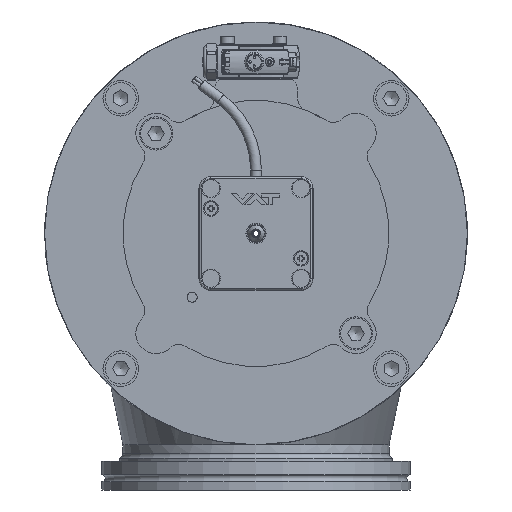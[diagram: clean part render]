
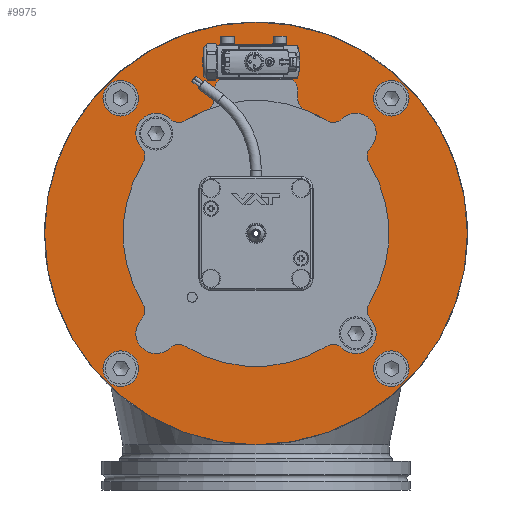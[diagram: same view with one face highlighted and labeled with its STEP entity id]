
A CAD part, left-side view. The second image highlights one B-rep face of the part: STEP entity #9975.
In plain terms, the highlighted planar face has unit normal (-1, 0, 0).
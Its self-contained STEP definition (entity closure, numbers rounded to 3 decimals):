
#9975=ADVANCED_FACE('BCT_REF_77270',(#13050,#13051,#13052,#13053,#13054,
#13055,#13056,#13057,#13058,#13059),#11048,.F.);
#11048=PLANE('',#31050);
#11951=CIRCLE('',#30988,89.);
#11982=CIRCLE('',#31041,3.4);
#11983=CIRCLE('',#31042,3.4);
#11984=CIRCLE('',#31043,3.4);
#11985=CIRCLE('',#31044,3.4);
#11986=CIRCLE('',#31045,7.5);
#11987=CIRCLE('',#31046,7.5);
#11988=CIRCLE('',#31047,7.5);
#11989=CIRCLE('',#31048,7.5);
#11990=CIRCLE('',#31049,55.145);
#13050=FACE_BOUND('',#14231,.T.);
#13051=FACE_BOUND('',#14232,.T.);
#13052=FACE_BOUND('',#14233,.T.);
#13053=FACE_BOUND('',#14234,.T.);
#13054=FACE_BOUND('',#14235,.T.);
#13055=FACE_BOUND('',#14236,.T.);
#13056=FACE_BOUND('',#14237,.T.);
#13057=FACE_BOUND('',#14238,.T.);
#13058=FACE_BOUND('',#14239,.T.);
#13059=FACE_BOUND('',#14240,.T.);
#14231=EDGE_LOOP('',(#17868));
#14232=EDGE_LOOP('',(#17869));
#14233=EDGE_LOOP('',(#17870));
#14234=EDGE_LOOP('',(#17871));
#14235=EDGE_LOOP('',(#17872));
#14236=EDGE_LOOP('',(#17873));
#14237=EDGE_LOOP('',(#17874));
#14238=EDGE_LOOP('',(#17875));
#14239=EDGE_LOOP('',(#17876));
#14240=EDGE_LOOP('',(#17877));
#17868=ORIENTED_EDGE('',*,*,#24912,.T.);
#17869=ORIENTED_EDGE('',*,*,#24913,.T.);
#17870=ORIENTED_EDGE('',*,*,#24914,.T.);
#17871=ORIENTED_EDGE('',*,*,#24915,.T.);
#17872=ORIENTED_EDGE('',*,*,#24916,.T.);
#17873=ORIENTED_EDGE('',*,*,#24917,.T.);
#17874=ORIENTED_EDGE('',*,*,#24918,.T.);
#17875=ORIENTED_EDGE('',*,*,#24919,.T.);
#17876=ORIENTED_EDGE('',*,*,#24920,.T.);
#17877=ORIENTED_EDGE('',*,*,#24873,.T.);
#22355=VERTEX_POINT('',#45001);
#22390=VERTEX_POINT('',#45190);
#22391=VERTEX_POINT('',#45192);
#22392=VERTEX_POINT('',#45194);
#22393=VERTEX_POINT('',#45196);
#22394=VERTEX_POINT('',#45198);
#22395=VERTEX_POINT('',#45200);
#22396=VERTEX_POINT('',#45202);
#22397=VERTEX_POINT('',#45204);
#22398=VERTEX_POINT('',#45206);
#24873=EDGE_CURVE('',#22355,#22355,#11951,.T.);
#24912=EDGE_CURVE('',#22390,#22390,#11982,.T.);
#24913=EDGE_CURVE('',#22391,#22391,#11983,.T.);
#24914=EDGE_CURVE('',#22392,#22392,#11984,.T.);
#24915=EDGE_CURVE('BCT_REF_77872',#22393,#22393,#11985,.T.);
#24916=EDGE_CURVE('BCT_REF_108915',#22394,#22394,#11986,.T.);
#24917=EDGE_CURVE('',#22395,#22395,#11987,.T.);
#24918=EDGE_CURVE('',#22396,#22396,#11988,.T.);
#24919=EDGE_CURVE('',#22397,#22397,#11989,.T.);
#24920=EDGE_CURVE('BCT_REF_78328',#22398,#22398,#11990,.T.);
#30988=AXIS2_PLACEMENT_3D('',#45000,#35199,#35200);
#31041=AXIS2_PLACEMENT_3D('',#45189,#35309,#35310);
#31042=AXIS2_PLACEMENT_3D('',#45191,#35311,#35312);
#31043=AXIS2_PLACEMENT_3D('',#45193,#35313,#35314);
#31044=AXIS2_PLACEMENT_3D('',#45195,#35315,#35316);
#31045=AXIS2_PLACEMENT_3D('',#45197,#35317,#35318);
#31046=AXIS2_PLACEMENT_3D('',#45199,#35319,#35320);
#31047=AXIS2_PLACEMENT_3D('',#45201,#35321,#35322);
#31048=AXIS2_PLACEMENT_3D('',#45203,#35323,#35324);
#31049=AXIS2_PLACEMENT_3D('',#45205,#35325,#35326);
#31050=AXIS2_PLACEMENT_3D('',#45207,#35327,#35328);
#35199=DIRECTION('',(-1.,0.,0.));
#35200=DIRECTION('',(0.,0.,1.));
#35309=DIRECTION('',(1.,0.,0.));
#35310=DIRECTION('',(0.,-1.,0.));
#35311=DIRECTION('',(1.,0.,0.));
#35312=DIRECTION('',(0.,0.,1.));
#35313=DIRECTION('',(1.,0.,0.));
#35314=DIRECTION('',(0.,1.,0.));
#35315=DIRECTION('',(1.,0.,0.));
#35316=DIRECTION('',(0.,0.,-1.));
#35317=DIRECTION('',(1.,0.,0.));
#35318=DIRECTION('',(0.,-1.,0.));
#35319=DIRECTION('',(1.,0.,0.));
#35320=DIRECTION('',(0.,0.,1.));
#35321=DIRECTION('',(1.,0.,0.));
#35322=DIRECTION('',(0.,1.,0.));
#35323=DIRECTION('',(1.,0.,0.));
#35324=DIRECTION('',(0.,0.,-1.));
#35325=DIRECTION('',(1.,0.,0.));
#35326=DIRECTION('',(0.,0.,-1.));
#35327=DIRECTION('',(1.,0.,0.));
#35328=DIRECTION('',(0.,0.,-1.));
#45000=CARTESIAN_POINT('',(0.,0.,0.));
#45001=CARTESIAN_POINT('',(0.,0.,89.));
#45189=CARTESIAN_POINT('',(0.,-42.073,-42.073));
#45190=CARTESIAN_POINT('',(0.,-45.473,-42.073));
#45191=CARTESIAN_POINT('',(0.,-42.073,42.073));
#45192=CARTESIAN_POINT('',(0.,-42.073,45.473));
#45193=CARTESIAN_POINT('',(0.,42.073,42.073));
#45194=CARTESIAN_POINT('',(0.,45.473,42.073));
#45195=CARTESIAN_POINT('',(0.,42.073,-42.073));
#45196=CARTESIAN_POINT('',(0.,42.073,-45.473));
#45197=CARTESIAN_POINT('',(0.,56.922,-56.922));
#45198=CARTESIAN_POINT('',(0.,49.422,-56.922));
#45199=CARTESIAN_POINT('',(0.,-56.922,-56.922));
#45200=CARTESIAN_POINT('',(0.,-56.922,-49.422));
#45201=CARTESIAN_POINT('',(0.,-56.922,56.922));
#45202=CARTESIAN_POINT('',(0.,-49.422,56.922));
#45203=CARTESIAN_POINT('',(0.,56.922,56.922));
#45204=CARTESIAN_POINT('',(0.,56.922,49.422));
#45205=CARTESIAN_POINT('',(0.,0.,0.));
#45206=CARTESIAN_POINT('',(0.,0.,-55.145));
#45207=CARTESIAN_POINT('',(0.,89.,0.));
